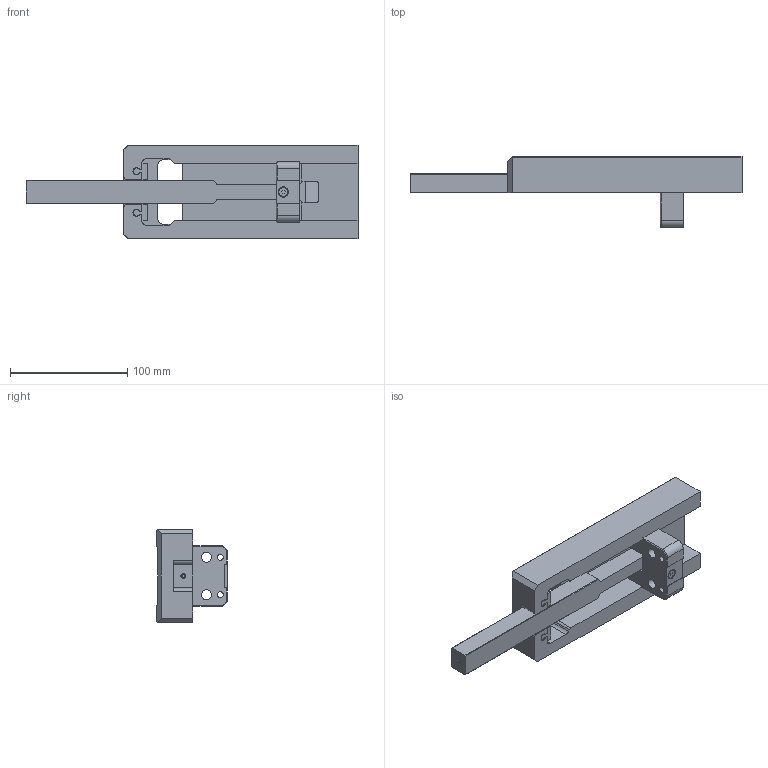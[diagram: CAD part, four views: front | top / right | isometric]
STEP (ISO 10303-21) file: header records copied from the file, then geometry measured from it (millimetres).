
FILE_DESCRIPTION (( 'STEP AP203' ), '1' );
FILE_NAME ('SA-110-200-50.step', '2015-06-16T06:00:56', ( '' ), ( '' ), 'SwSTEP 2.0', 'SolidWorks 2015', '' );
FILE_SCHEMA (( 'CONFIG_CONTROL_DESIGN' ));
Length unit declared in the file: millimetre
Products named in the file (2): SA-110-200-50
Bounding box: 283.64 x 60.6 x 80 mm (x, y, z)
Surface area: 83195.4 mm2 (no closed solid volume)
Topology: 0 solids, 9 shells, 136 faces, 481 edges, 346 vertices
Faces by surface type: plane 97, cylinder 31, cone 8
Full cylindrical faces by diameter (mm): 1.3 x2, 2.5 x1, 5 x2, 5.5 x2, 7.64 x1, 8.5 x2
Entity records: 5216 total; most frequent: CARTESIAN_POINT 983, DIRECTION 825, ORIENTED_EDGE 782, EDGE_CURVE 465, LINE 357, VECTOR 357, VERTEX_POINT 344, AXIS2_PLACEMENT_3D 234
